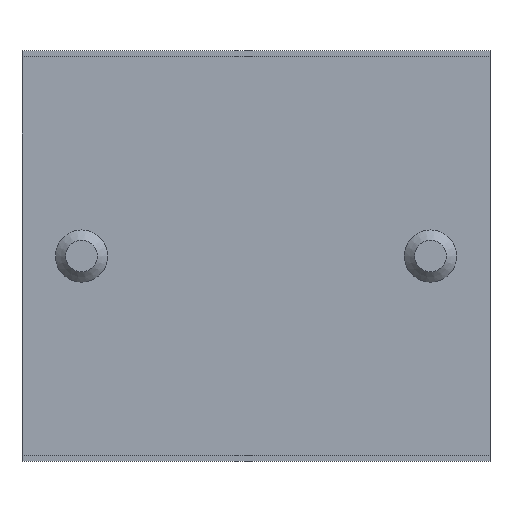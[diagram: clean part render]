
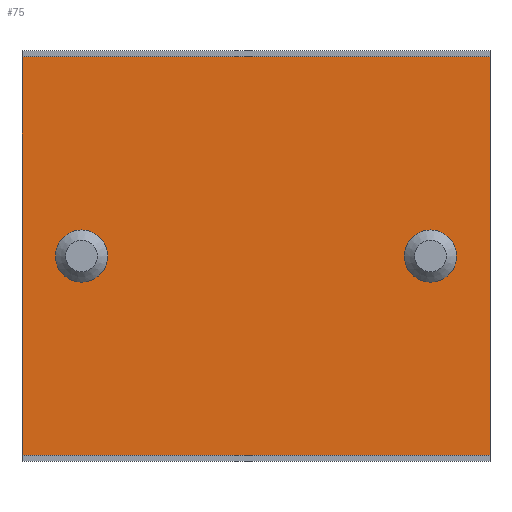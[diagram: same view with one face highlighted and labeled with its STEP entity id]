
A CAD part, top view. The second image highlights one B-rep face of the part: STEP entity #75.
In plain terms, the highlighted planar face has unit normal (0, 0, 1).
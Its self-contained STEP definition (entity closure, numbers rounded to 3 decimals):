
#75 = ADVANCED_FACE( '', ( #143, #144, #145 ), #146, .F. );
#143 = FACE_BOUND( '', #203, .T. );
#144 = FACE_BOUND( '', #204, .T. );
#145 = FACE_OUTER_BOUND( '', #205, .T. );
#146 = PLANE( '', #206 );
#203 = EDGE_LOOP( '', ( #281 ) );
#204 = EDGE_LOOP( '', ( #282 ) );
#205 = EDGE_LOOP( '', ( #283, #284, #285, #286 ) );
#206 = AXIS2_PLACEMENT_3D( '', #287, #288, #289 );
#281 = ORIENTED_EDGE( '', *, *, #361, .F. );
#282 = ORIENTED_EDGE( '', *, *, #367, .F. );
#283 = ORIENTED_EDGE( '', *, *, #354, .T. );
#284 = ORIENTED_EDGE( '', *, *, #369, .F. );
#285 = ORIENTED_EDGE( '', *, *, #370, .F. );
#286 = ORIENTED_EDGE( '', *, *, #342, .T. );
#287 = CARTESIAN_POINT( '', ( 57., 48.5, 1.5 ) );
#288 = DIRECTION( '', ( 0., 0., -1. ) );
#289 = DIRECTION( '', ( -1., 0., 0. ) );
#342 = EDGE_CURVE( '', #386, #384, #387, .T. );
#354 = EDGE_CURVE( '', #384, #404, #406, .T. );
#361 = EDGE_CURVE( '', #417, #417, #418, .F. );
#367 = EDGE_CURVE( '', #426, #426, #427, .F. );
#369 = EDGE_CURVE( '', #429, #404, #430, .T. );
#370 = EDGE_CURVE( '', #386, #429, #431, .T. );
#384 = VERTEX_POINT( '', #446 );
#386 = VERTEX_POINT( '', #449 );
#387 = LINE( '', #450, #451 );
#404 = VERTEX_POINT( '', #474 );
#406 = LINE( '', #477, #478 );
#417 = VERTEX_POINT( '', #493 );
#418 = CIRCLE( '', #494, 6.351 );
#426 = VERTEX_POINT( '', #505 );
#427 = CIRCLE( '', #506, 6.351 );
#429 = VERTEX_POINT( '', #508 );
#430 = LINE( '', #509, #510 );
#431 = LINE( '', #511, #512 );
#446 = CARTESIAN_POINT( '', ( -57., 48.5, 1.5 ) );
#449 = CARTESIAN_POINT( '', ( 57., 48.5, 1.5 ) );
#450 = CARTESIAN_POINT( '', ( 57., 48.5, 1.5 ) );
#451 = VECTOR( '', #531, 1000. );
#474 = CARTESIAN_POINT( '', ( -57., -48.5, 1.5 ) );
#477 = CARTESIAN_POINT( '', ( -57., 48.5, 1.5 ) );
#478 = VECTOR( '', #542, 1000. );
#493 = CARTESIAN_POINT( '', ( 36.15, 0., 1.5 ) );
#494 = AXIS2_PLACEMENT_3D( '', #550, #551, #552 );
#505 = CARTESIAN_POINT( '', ( -48.851, 0., 1.5 ) );
#506 = AXIS2_PLACEMENT_3D( '', #556, #557, #558 );
#508 = CARTESIAN_POINT( '', ( 57., -48.5, 1.5 ) );
#509 = CARTESIAN_POINT( '', ( 57., -48.5, 1.5 ) );
#510 = VECTOR( '', #559, 1000. );
#511 = CARTESIAN_POINT( '', ( 57., 48.5, 1.5 ) );
#512 = VECTOR( '', #560, 1000. );
#531 = DIRECTION( '', ( -1., 0., 0. ) );
#542 = DIRECTION( '', ( 0., -1., 0. ) );
#550 = CARTESIAN_POINT( '', ( 42.5, 0., 1.5 ) );
#551 = DIRECTION( '', ( 0., 0., -1. ) );
#552 = DIRECTION( '', ( -1., 0., 0. ) );
#556 = CARTESIAN_POINT( '', ( -42.5, 0., 1.5 ) );
#557 = DIRECTION( '', ( 0., 0., -1. ) );
#558 = DIRECTION( '', ( -1., 0., 0. ) );
#559 = DIRECTION( '', ( -1., 0., 0. ) );
#560 = DIRECTION( '', ( 0., -1., 0. ) );
